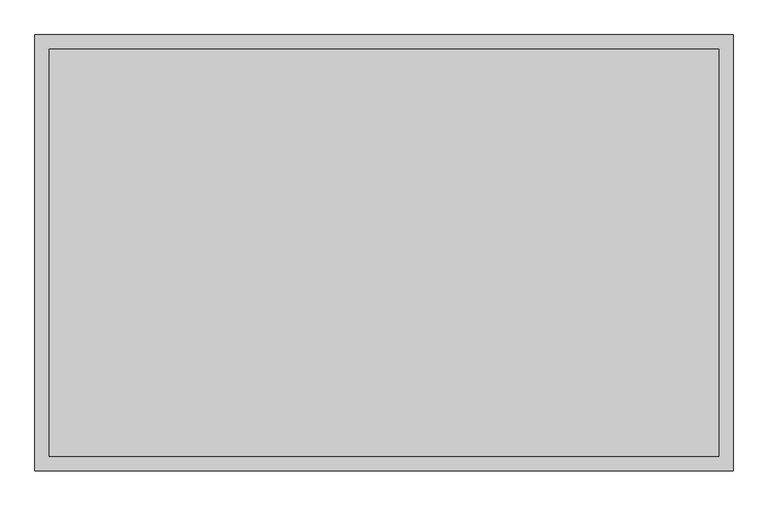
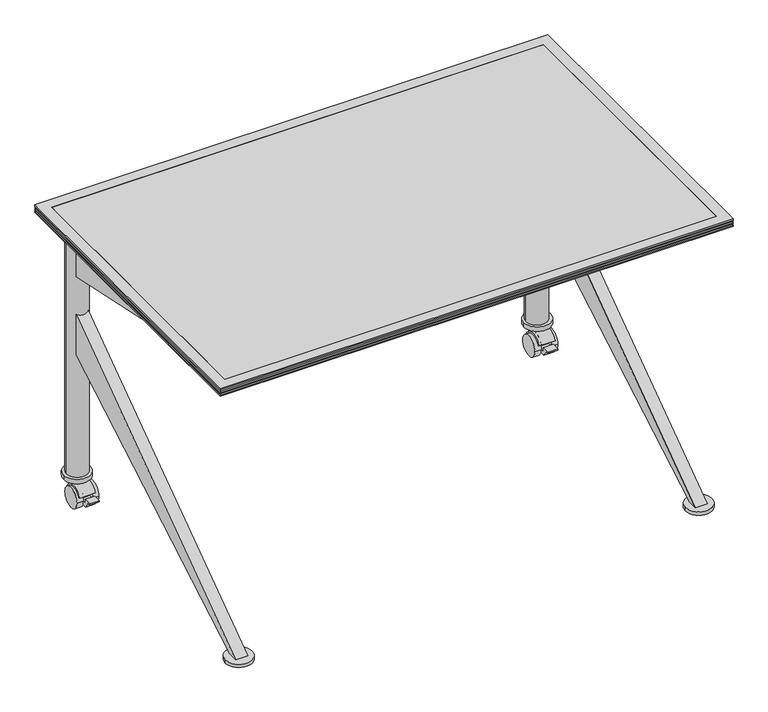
"""IFC4 building model written with IfcOpenShell, lengths in millimetres: furniture geometry, Coalesse_AM_Table_Conference_Ballet_Rectangular_KBase : Folding - 48L x 30W."""

from ifc_helpers import new_model, si_unit, point, frame, frame_2d, origin, origin_with_axes, place, context, project, spatial, polyline, circle_curve, trimmed, segment, composite_curve, outline, extrude, faceted_brep, source, transform, mapped, element, save


def furniture_664d09f2(model_context):
    return source(origin(), model_context, "Body", "SolidModel", [
        extrude(outline(composite_curve([segment(trimmed(circle_curve(frame_2d((-547.0092495, -349.25)), 25.4), [point((-572.4092495, -349.25))], [point((-521.6092495, -349.25))], False, "CARTESIAN"), True, "CONTINUOUS"), segment(trimmed(circle_curve(frame_2d((-547.0092495, -349.25)), 25.4), [point((-521.6092495, -349.25))], [point((-572.4092495, -349.25))], False, "CARTESIAN"), True, "CONTINUOUS")], self_intersect=False)), origin_with_axes(), (0.0, 0.0, 1.0), 4.2936144),
        extrude(outline(composite_curve([segment(trimmed(circle_curve(frame_2d((546.2624629, -349.25)), 25.4), [point((520.8624629, -349.25))], [point((571.6624629, -349.25))], False, "CARTESIAN"), True, "CONTINUOUS"), segment(trimmed(circle_curve(frame_2d((546.2624629, -349.25)), 25.4), [point((571.6624629, -349.25))], [point((520.8624629, -349.25))], False, "CARTESIAN"), True, "CONTINUOUS")], self_intersect=False)), origin_with_axes(), (0.0, 0.0, 1.0), 4.2936144),
        extrude(outline(composite_curve([segment(polyline([(325.5604217, 14.7931869), (322.6491351, 16.4051117)]), True, "CONTINUOUS"), segment(trimmed(circle_curve(frame_2d((299.2336856, 24.9907393)), 24.9398531), [point((322.6491351, 16.4051117))], [point((276.7459564, 35.7749086))], True, "CARTESIAN"), True, "CONTINUOUS"), segment(polyline([(276.7459564, 35.7749086), (273.3203751, 36.8601197)]), True, "CONTINUOUS"), segment(trimmed(circle_curve(frame_2d((298.5646326, 26.7032164)), 27.2109394), [point((273.3203751, 36.8601197))], [point((310.1847122, 51.3082762))], False, "CARTESIAN"), True, "CONTINUOUS"), segment(trimmed(circle_curve(frame_2d((300.1211664, 25.8930561)), 27.3351124), [point((310.1847122, 51.3082762))], [point((325.5604217, 35.8956886))], False, "CARTESIAN"), True, "CONTINUOUS"), segment(trimmed(circle_curve(frame_2d((298.7258895, 25.3444377)), 28.8343721), [point((325.5604217, 35.8956886))], [point((325.5604217, 14.7931869))], False, "CARTESIAN"), True, "CONTINUOUS")], self_intersect=False)), frame((526.2279182, 0.0, 0.0), z_axis=(1.0, 0.0, 0.0), x_axis=(0.0, 1.0, 0.0)), (0.0, 0.0, 1.0), 37.985857),
        extrude(outline(composite_curve([segment(trimmed(circle_curve(frame_2d((299.2336856, 24.9907393)), 24.9398531), [point((274.2938325, 24.9907393))], [point((324.1735388, 24.9907393))], False, "CARTESIAN"), True, "CONTINUOUS"), segment(trimmed(circle_curve(frame_2d((299.2336856, 24.9907393)), 24.9398531), [point((324.1735388, 24.9907393))], [point((274.2938325, 24.9907393))], False, "CARTESIAN"), True, "CONTINUOUS")], self_intersect=False)), frame((517.0801992, 0.0, 0.0), z_axis=(1.0, 0.0, 0.0), x_axis=(0.0, 1.0, 0.0)), (0.0, 0.0, 1.0), 14.732),
        extrude(outline(composite_curve([segment(polyline([(310.1847122, 63.5225277), (325.5604217, 63.5225277), (325.5604217, 35.8956886)]), True, "CONTINUOUS"), segment(trimmed(circle_curve(frame_2d((298.7258895, 25.3444377)), 28.8343721), [point((325.5604217, 35.8956886))], [point((325.5604217, 14.7931869))], False, "CARTESIAN"), True, "CONTINUOUS"), segment(polyline([(325.5604217, 14.7931869), (312.095607, 22.2484025), (309.0197341, 16.6930892)]), True, "CONTINUOUS"), segment(trimmed(circle_curve(frame_2d((299.327305, 25.0010719)), 12.7658043), [point((309.0197341, 16.6930892))], [point((289.0624455, 17.4117096))], False, "CARTESIAN"), True, "CONTINUOUS"), segment(polyline([(289.0624455, 17.4117096), (263.293848, 17.4117096), (254.3223524, 31.7691038), (247.5969156, 31.7691038), (247.5969156, 35.1210973), (266.6469156, 35.1210973), (266.6469156, 25.0010719), (285.9362269, 25.0010719), (288.1998286, 32.1463658), (273.3203751, 36.8601197)]), True, "CONTINUOUS"), segment(trimmed(circle_curve(frame_2d((298.5646326, 26.7032164)), 27.2109394), [point((273.3203751, 36.8601197))], [point((310.1847122, 51.3082762))], False, "CARTESIAN"), True, "CONTINUOUS"), segment(polyline([(310.1847122, 51.3082762), (310.1847122, 63.5225277)]), True, "CONTINUOUS")], self_intersect=False)), frame((531.8121992, 0.0, 0.0), z_axis=(1.0, 0.0, 0.0), x_axis=(0.0, 1.0, 0.0)), (0.0, 0.0, 1.0), 24.5934543),
        extrude(outline(composite_curve([segment(trimmed(circle_curve(frame_2d((299.2336856, 24.9907393)), 24.9398531), [point((274.2938325, 24.9907393))], [point((324.1735388, 24.9907393))], False, "CARTESIAN"), True, "CONTINUOUS"), segment(trimmed(circle_curve(frame_2d((299.2336856, 24.9907393)), 24.9398531), [point((324.1735388, 24.9907393))], [point((274.2938325, 24.9907393))], False, "CARTESIAN"), True, "CONTINUOUS")], self_intersect=False)), frame((556.4056535, 0.0, 0.0), z_axis=(1.0, 0.0, 0.0), x_axis=(0.0, 1.0, 0.0)), (0.0, 0.0, 1.0), 14.732),
        extrude(outline(composite_curve([segment(trimmed(circle_curve(frame_2d((546.9954026, 316.7212308)), 31.75), [point((578.7454026, 316.7212308))], [point((515.2454026, 316.7212308))], False, "CARTESIAN"), True, "CONTINUOUS"), segment(trimmed(circle_curve(frame_2d((546.9954026, 316.7212308)), 31.75), [point((515.2454026, 316.7212308))], [point((578.7454026, 316.7212308))], False, "CARTESIAN"), True, "CONTINUOUS")], self_intersect=False)), frame((0.0, 0.0, 62.0397209), z_axis=(0.0, 0.0, 1.0), x_axis=(1.0, 0.0, 0.0)), (0.0, 0.0, 1.0), 10.7840801),
        extrude(outline(composite_curve([segment(polyline([(325.5604217, 14.7931869), (322.6491351, 16.4051117)]), True, "CONTINUOUS"), segment(trimmed(circle_curve(frame_2d((299.2336856, 24.9907393)), 24.9398531), [point((322.6491351, 16.4051117))], [point((276.7459564, 35.7749086))], True, "CARTESIAN"), True, "CONTINUOUS"), segment(polyline([(276.7459564, 35.7749086), (273.3203751, 36.8601197)]), True, "CONTINUOUS"), segment(trimmed(circle_curve(frame_2d((298.5646326, 26.7032164)), 27.2109394), [point((273.3203751, 36.8601197))], [point((310.1847122, 51.3082762))], False, "CARTESIAN"), True, "CONTINUOUS"), segment(trimmed(circle_curve(frame_2d((300.1211664, 25.8930561)), 27.3351124), [point((310.1847122, 51.3082762))], [point((325.5604217, 35.8956886))], False, "CARTESIAN"), True, "CONTINUOUS"), segment(trimmed(circle_curve(frame_2d((298.7258895, 25.3444377)), 28.8343721), [point((325.5604217, 35.8956886))], [point((325.5604217, 14.7931869))], False, "CARTESIAN"), True, "CONTINUOUS")], self_intersect=False)), frame((-565.6010267, 0.0, 0.0), z_axis=(1.0, 0.0, 0.0), x_axis=(0.0, 1.0, 0.0)), (0.0, 0.0, 1.0), 37.7563315),
        extrude(outline(composite_curve([segment(trimmed(circle_curve(frame_2d((299.2336856, 24.9907393)), 24.9398531), [point((274.2938325, 24.9907393))], [point((324.1735388, 24.9907393))], False, "CARTESIAN"), True, "CONTINUOUS"), segment(trimmed(circle_curve(frame_2d((299.2336856, 24.9907393)), 24.9398531), [point((324.1735388, 24.9907393))], [point((274.2938325, 24.9907393))], False, "CARTESIAN"), True, "CONTINUOUS")], self_intersect=False)), frame((-533.9822707, 0.0, 0.0), z_axis=(1.0, 0.0, 0.0), x_axis=(0.0, 1.0, 0.0)), (0.0, 0.0, 1.0), 14.732),
        extrude(outline(composite_curve([segment(polyline([(310.1847122, 63.5225277), (325.5604217, 63.5225277), (325.5604217, 35.8956886)]), True, "CONTINUOUS"), segment(trimmed(circle_curve(frame_2d((298.7258895, 25.3444377)), 28.8343721), [point((325.5604217, 35.8956886))], [point((325.5604217, 14.7931869))], False, "CARTESIAN"), True, "CONTINUOUS"), segment(polyline([(325.5604217, 14.7931869), (312.095607, 22.2484025), (309.0197341, 16.6930892)]), True, "CONTINUOUS"), segment(trimmed(circle_curve(frame_2d((299.327305, 25.0010719)), 12.7658043), [point((309.0197341, 16.6930892))], [point((289.0624455, 17.4117096))], False, "CARTESIAN"), True, "CONTINUOUS"), segment(polyline([(289.0624455, 17.4117096), (263.293848, 17.4117096), (254.3223524, 31.7691038), (247.5969156, 31.7691038), (247.5969156, 35.1210973), (266.6469156, 35.1210973), (266.6469156, 25.0010719), (285.9362269, 25.0010719), (288.1998286, 32.1463658), (273.3203751, 36.8601197)]), True, "CONTINUOUS"), segment(trimmed(circle_curve(frame_2d((298.5646326, 26.7032164)), 27.2109394), [point((273.3203751, 36.8601197))], [point((310.1847122, 51.3082762))], False, "CARTESIAN"), True, "CONTINUOUS"), segment(polyline([(310.1847122, 51.3082762), (310.1847122, 63.5225277)]), True, "CONTINUOUS")], self_intersect=False)), frame((-556.4056535, 0.0, 0.0), z_axis=(1.0, 0.0, 0.0), x_axis=(0.0, 1.0, 0.0)), (0.0, 0.0, 1.0), 22.4233828),
        extrude(outline(composite_curve([segment(trimmed(circle_curve(frame_2d((299.2336856, 24.9907393)), 24.9398531), [point((274.2938325, 24.9907393))], [point((324.1735388, 24.9907393))], False, "CARTESIAN"), True, "CONTINUOUS"), segment(trimmed(circle_curve(frame_2d((299.2336856, 24.9907393)), 24.9398531), [point((324.1735388, 24.9907393))], [point((274.2938325, 24.9907393))], False, "CARTESIAN"), True, "CONTINUOUS")], self_intersect=False)), frame((-571.1376535, 0.0, 0.0), z_axis=(1.0, 0.0, 0.0), x_axis=(0.0, 1.0, 0.0)), (0.0, 0.0, 1.0), 14.732),
        extrude(outline(composite_curve([segment(trimmed(circle_curve(frame_2d((-546.9954026, 316.7212308)), 31.75), [point((-578.7454026, 316.7212308))], [point((-515.2454026, 316.7212308))], False, "CARTESIAN"), True, "CONTINUOUS"), segment(trimmed(circle_curve(frame_2d((-546.9954026, 316.7212308)), 31.75), [point((-515.2454026, 316.7212308))], [point((-578.7454026, 316.7212308))], False, "CARTESIAN"), True, "CONTINUOUS")], self_intersect=False)), frame((0.0, 0.0, 62.0397209), z_axis=(0.0, 0.0, 1.0), x_axis=(1.0, 0.0, 0.0)), (0.0, 0.0, 1.0), 10.7840801),
        extrude(outline(composite_curve([segment(trimmed(circle_curve(frame_2d((-546.1003633, 317.5)), 25.4), [point((-571.5003633, 317.5))], [point((-520.7003633, 317.5))], False, "CARTESIAN"), True, "CONTINUOUS"), segment(trimmed(circle_curve(frame_2d((-546.1003633, 317.5)), 25.4), [point((-520.7003633, 317.5))], [point((-571.5003633, 317.5))], False, "CARTESIAN"), True, "CONTINUOUS")], self_intersect=False)), frame((0.0, 0.0, 72.823801), z_axis=(0.0, 0.0, 1.0), x_axis=(1.0, 0.0, 0.0)), (0.0, 0.0, 1.0), 625.6762232),
        extrude(outline(composite_curve([segment(trimmed(circle_curve(frame_2d((546.1003633, 317.5)), 25.4), [point((520.7003633, 317.5))], [point((571.5003633, 317.5))], False, "CARTESIAN"), True, "CONTINUOUS"), segment(trimmed(circle_curve(frame_2d((546.1003633, 317.5)), 25.4), [point((571.5003633, 317.5))], [point((520.7003633, 317.5))], False, "CARTESIAN"), True, "CONTINUOUS")], self_intersect=False)), frame((0.0, 0.0, 72.823801), z_axis=(0.0, 0.0, 1.0), x_axis=(1.0, 0.0, 0.0)), (0.0, 0.0, 1.0), 625.6762232),
        extrude(outline(polyline([(296.4656271, 577.7388634), (-269.874901, 698.5000242), (-238.124901, 698.5000242), (296.4656271, 641.3500242), (296.4656271, 577.7388634)])), frame((-560.4007845, 0.0, 0.0), z_axis=(1.0, 0.0, 0.0), x_axis=(0.0, 1.0, 0.0)), (0.0, 0.0, 1.0), 28.5877899),
        extrude(outline(polyline([(296.4656271, 381.0), (-338.1375951, 12.7), (-360.3624013, 12.7), (296.4656271, 482.7111245), (296.4656271, 381.0)])), frame((-560.4007845, 0.0, 0.0), z_axis=(1.0, 0.0, 0.0), x_axis=(0.0, 1.0, 0.0)), (0.0, 0.0, 1.0), 28.5877899),
        extrude(outline(polyline([(296.4656271, 577.7388634), (-269.874901, 698.5000242), (-238.124901, 698.5000242), (296.4656271, 641.3500242), (296.4656271, 577.7388634)])), frame((531.8121992, 0.0, 0.0), z_axis=(1.0, 0.0, 0.0), x_axis=(0.0, 1.0, 0.0)), (0.0, 0.0, 1.0), 28.575),
        extrude(outline(polyline([(296.4656271, 381.0), (-338.1375951, 12.7), (-360.3624013, 12.7), (296.4656271, 482.7111245), (296.4656271, 381.0)])), frame((531.8121992, 0.0, 0.0), z_axis=(1.0, 0.0, 0.0), x_axis=(0.0, 1.0, 0.0)), (0.0, 0.0, 1.0), 28.575),
        extrude(outline(composite_curve([segment(trimmed(circle_curve(frame_2d((-547.0092495, -349.25)), 31.75), [point((-578.7592495, -349.25))], [point((-515.2592495, -349.25))], False, "CARTESIAN"), True, "CONTINUOUS"), segment(trimmed(circle_curve(frame_2d((-547.0092495, -349.25)), 31.75), [point((-515.2592495, -349.25))], [point((-578.7592495, -349.25))], False, "CARTESIAN"), True, "CONTINUOUS")], self_intersect=False)), frame((0.0, 0.0, 4.2936144), z_axis=(0.0, 0.0, 1.0), x_axis=(1.0, 0.0, 0.0)), (0.0, 0.0, 1.0), 8.4063856),
        extrude(outline(composite_curve([segment(trimmed(circle_curve(frame_2d((546.2624629, -349.25)), 31.75), [point((514.5124629, -349.25))], [point((578.0124629, -349.25))], False, "CARTESIAN"), True, "CONTINUOUS"), segment(trimmed(circle_curve(frame_2d((546.2624629, -349.25)), 31.75), [point((578.0124629, -349.25))], [point((514.5124629, -349.25))], False, "CARTESIAN"), True, "CONTINUOUS")], self_intersect=False)), frame((0.0, 0.0, 4.2936144), z_axis=(0.0, 0.0, 1.0), x_axis=(1.0, 0.0, 0.0)), (0.0, 0.0, 1.0), 8.4063856),
        faceted_brep([(-609.6003633, 381.0, 704.85), (-584.2003876, 355.6000242, 698.5000242), (-584.2003876, -355.5999516, 698.5000242), (-609.6003633, -380.9999273, 704.85), (-609.6003633, 381.0, 708.0250242), (-609.6003633, -380.9999273, 708.0250242), (-606.4253755, 377.8250121, 709.6125), (-606.4253755, -377.8249394, 709.6125), (-609.6003633, 381.0, 711.1999758), (-609.6003633, -380.9999273, 711.1999758), (-606.4253755, 377.8250121, 712.7875242), (-606.4253755, -377.8249394, 712.7875242), (-609.6003633, 381.0, 714.375), (-609.6003633, -380.9999273, 714.375), (-606.4253755, 377.8250121, 715.9624758), (-606.4253755, -377.8249394, 715.9624758), (-609.6003633, 381.0, 717.5500242), (-609.6003633, -380.9999273, 717.5500242), (-606.4253755, 377.8250121, 719.1375), (-606.4253755, -377.8249394, 719.1375), (-609.6003633, 381.0, 720.7249758), (-609.6003633, -380.9999273, 720.7249758), (-609.6003633, 381.0, 723.9), (-609.6003633, -380.9999273, 723.9), (-584.2003876, 355.6000242, 723.9), (-584.2003876, -355.5999516, 723.9), (584.1998062, -355.5999516, 698.5000242), (609.599782, -380.9999273, 704.85), (609.599782, -380.9999273, 708.0250242), (606.4247941, -377.8249394, 709.6125), (609.599782, -380.9999273, 711.1999758), (606.4247941, -377.8249394, 712.7875242), (609.599782, -380.9999273, 714.375), (606.4247941, -377.8249394, 715.9624758), (609.599782, -380.9999273, 717.5500242), (606.4247941, -377.8249394, 719.1375), (609.599782, -380.9999273, 720.7249758), (609.599782, -380.9999273, 723.9), (584.1998062, -355.5999516, 723.9), (584.1998062, 355.6000242, 698.5000242), (609.599782, 381.0, 704.85), (609.599782, 381.0, 708.0250242), (606.4247941, 377.8250121, 709.6125), (609.599782, 381.0, 711.1999758), (606.4247941, 377.8250121, 712.7875242), (609.599782, 381.0, 714.375), (606.4247941, 377.8250121, 715.9624758), (609.599782, 381.0, 717.5500242), (606.4247941, 377.8250121, 719.1375), (609.599782, 381.0, 720.7249758), (609.599782, 381.0, 723.9), (584.1998062, 355.6000242, 723.9)], [[[0, 1, 2, 3]], [[4, 0, 3, 5]], [[6, 4, 5, 7]], [[8, 6, 7, 9]], [[10, 8, 9, 11]], [[12, 10, 11, 13]], [[14, 12, 13, 15]], [[16, 14, 15, 17]], [[18, 16, 17, 19]], [[20, 18, 19, 21]], [[22, 20, 21, 23]], [[1, 24, 25, 2]], [[3, 2, 26, 27]], [[5, 3, 27, 28]], [[7, 5, 28, 29]], [[9, 7, 29, 30]], [[11, 9, 30, 31]], [[13, 11, 31, 32]], [[15, 13, 32, 33]], [[17, 15, 33, 34]], [[19, 17, 34, 35]], [[21, 19, 35, 36]], [[23, 21, 36, 37]], [[2, 25, 38, 26]], [[27, 26, 39, 40]], [[28, 27, 40, 41]], [[29, 28, 41, 42]], [[30, 29, 42, 43]], [[31, 30, 43, 44]], [[32, 31, 44, 45]], [[33, 32, 45, 46]], [[34, 33, 46, 47]], [[35, 34, 47, 48]], [[36, 35, 48, 49]], [[37, 36, 49, 50]], [[26, 38, 51, 39]], [[40, 39, 1, 0]], [[41, 40, 0, 4]], [[42, 41, 4, 6]], [[43, 42, 6, 8]], [[44, 43, 8, 10]], [[45, 44, 10, 12]], [[46, 45, 12, 14]], [[47, 46, 14, 16]], [[48, 47, 16, 18]], [[49, 48, 18, 20]], [[50, 49, 20, 22]], [[23, 37, 50, 22], [24, 51, 38, 25]], [[39, 51, 24, 1]]]),
        extrude(outline(polyline([(584.1998062, 355.6000242), (584.1998062, -355.5999516), (-584.2003876, -355.5999516), (-584.2003876, 355.6000242), (584.1998062, 355.6000242)])), frame((0.0, 0.0, 704.85), z_axis=(0.0, 0.0, 1.0), x_axis=(1.0, 0.0, 0.0)), (0.0, 0.0, 1.0), 19.05),
    ])


if __name__ == "__main__":
    model = new_model("IFC4")
    model_context = context("Model", 3, world=origin())
    ifc_project = project(units=[si_unit("LENGTHUNIT", "METRE", prefix="MILLI")], contexts=[model_context])
    site = spatial("IfcSite", under=ifc_project)
    building = spatial("IfcBuilding", under=site)
    placement = place(None, origin())
    furniture_shape = furniture_664d09f2(model_context)
    element("IfcFurniture", 1, ObjectType="Coalesse_AM_Table_Conference_Ballet_Rectangular_KBase : Folding - 48L x 30W", at=placement, inside=building, context=model_context, shape_type="MappedRepresentation", body=[
        mapped(furniture_shape, transform((0.0, 0.0, 0.0), x_axis=(1.0, 0.0, 0.0), y_axis=(0.0, 1.0, 0.0), z_axis=(0.0, 0.0, 1.0))),
    ])
    save(model, "model.ifc")
